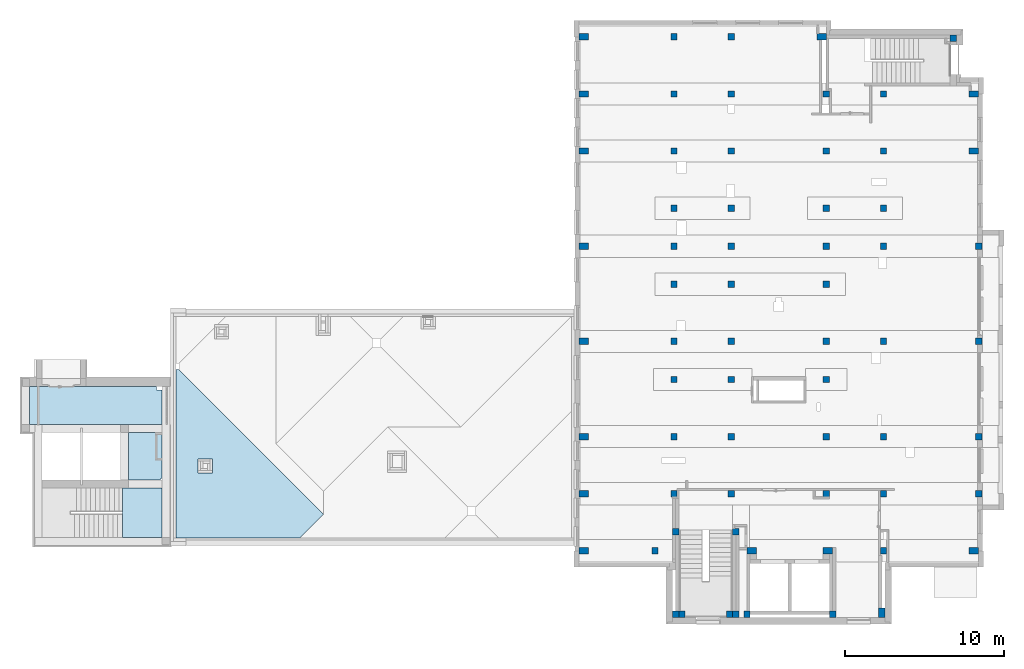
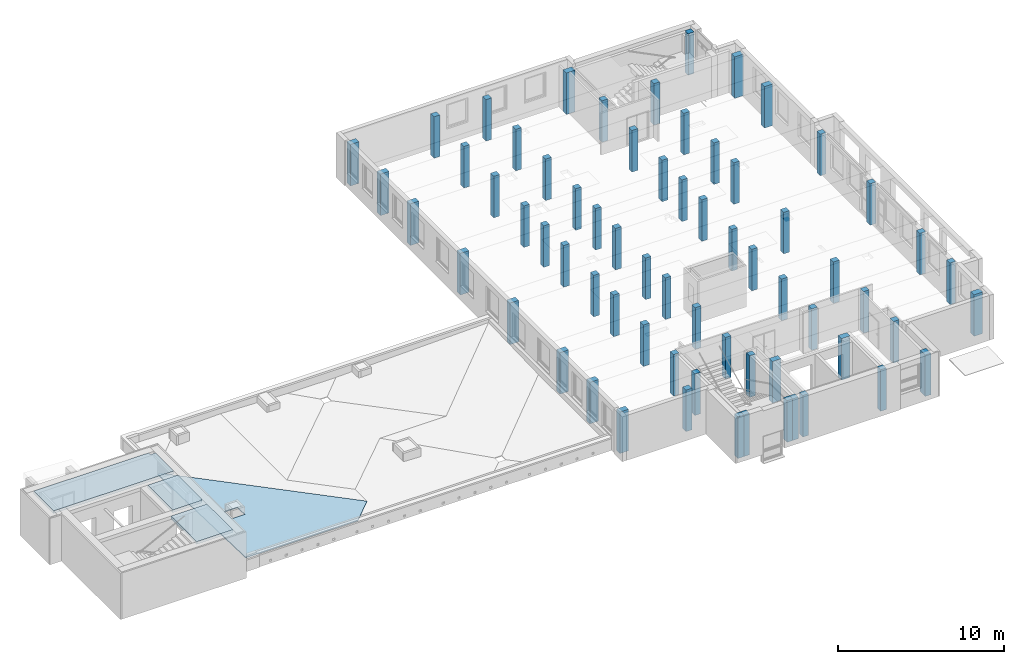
# One storey, part 1 of 27: 66 columns, 4 slabs, 2 openings, 1 element without a shape of its own.
"""IFC4 building model written with IfcOpenShell, lengths in metres."""

from ifc_helpers import new_model, entity, si_unit, converted_unit, derived_unit, frame, frame_2d, origin, origin_with_axes, place, context, subcontext, project, spatial, polyline, rectangle, outline, extrude, material, layer, layer_set, layer_usage, element, aggregate, save


model = new_model("IFC4")

# Units and contexts
model_context = context("Model", 3, precision=1e-05, world=origin())
body_context = subcontext(model_context, "Body", "Model", "MODEL_VIEW")
ifc_project = project(units=[si_unit("LENGTHUNIT", "METRE"), si_unit("AREAUNIT", "SQUARE_METRE"), si_unit("VOLUMEUNIT", "CUBIC_METRE"), si_unit("MASSUNIT", "GRAM", prefix="KILO"), converted_unit("PLANEANGLEUNIT", "DEGREE", entity("IfcPlaneAngleMeasure", 0.0174532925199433), si_unit("PLANEANGLEUNIT", "RADIAN"), dimensions=[0, 0, 0, 0, 0, 0, 0]), derived_unit("THERMALTRANSMITTANCEUNIT", [(si_unit("POWERUNIT", "WATT"), 1), (si_unit("THERMODYNAMICTEMPERATUREUNIT", "KELVIN"), -1), (si_unit("LENGTHUNIT", "METRE"), -2)]), derived_unit("VOLUMETRICFLOWRATEUNIT", [(si_unit("LENGTHUNIT", "METRE"), 3), (converted_unit("TIMEUNIT", "hour", entity("IfcTimeMeasure", 3600.0), si_unit("TIMEUNIT", "SECOND"), dimensions=[0, 0, 1, 0, 0, 0, 0]), -1), (si_unit("LENGTHUNIT", "METRE"), -1)])], contexts=[model_context])

# Site, building, storey
site_placement = place(None, origin())
site = spatial("IfcSite", under=ifc_project, at=site_placement, Name="3. ASŘ", CompositionType="ELEMENT")
building_placement = place(site_placement, origin())
building = spatial("IfcBuilding", under=site, at=building_placement, Name="Pavilon C", CompositionType="ELEMENT")
storey_placement = place(building_placement, frame((0.0, 0.0, 7.2)))
storey = spatial("IfcBuildingStorey", under=building, at=storey_placement, Name="Půdorys 3.NP", CompositionType="ELEMENT", Elevation=7.2)

# Columns
ifc_material_1 = material(Name="ZELEZOBETONOVÁ KCE")
column_1_placement = place(storey_placement, frame((30.95, 11.0, -0.1)))
element("IfcColumn", 1, at=column_1_placement, inside=storey, material=ifc_material_1, PredefinedType="COLUMN", context=body_context, shape_type="SweptSolid", body=[
    extrude(rectangle(XDim=0.4, YDim=0.4, at=frame_2d((-0.2, -0.2), x_axis=(-1.0, 0.0))), origin_with_axes(), (0.0, 0.0, 1.0), 3.05),
])
ifc_material_2 = material(Name="ZELEZOBETONOVÁ KCE")
column_2_placement = place(storey_placement, frame((44.15, 21.8, -0.1)))
element("IfcColumn", 2, at=column_2_placement, inside=storey, material=ifc_material_2, PredefinedType="COLUMN", context=body_context, shape_type="SweptSolid", body=[
    extrude(rectangle(XDim=0.4, YDim=0.4, at=frame_2d((-0.2, -0.2), x_axis=(-1.0, 0.0))), origin_with_axes(), (0.0, 0.0, 1.0), 3.05),
])
ifc_material_3 = material(Name="ZELEZOBETONOVÁ KCE")
column_3_placement = place(storey_placement, frame((40.55, 21.8, -0.1)))
element("IfcColumn", 3, at=column_3_placement, inside=storey, material=ifc_material_3, PredefinedType="COLUMN", context=body_context, shape_type="SweptSolid", body=[
    extrude(rectangle(XDim=0.4, YDim=0.4, at=frame_2d((-0.2, -0.2), x_axis=(-1.0, 0.0))), origin_with_axes(), (0.0, 0.0, 1.0), 3.05),
])
ifc_material_4 = material(Name="ZELEZOBETONOVÁ KCE")
column_4_placement = place(storey_placement, frame((40.55, 17.0, -0.1)))
element("IfcColumn", 4, at=column_4_placement, inside=storey, material=ifc_material_4, PredefinedType="COLUMN", context=body_context, shape_type="SweptSolid", body=[
    extrude(rectangle(XDim=0.4, YDim=0.4, at=frame_2d((-0.2, -0.2), x_axis=(-1.0, 0.0))), origin_with_axes(), (0.0, 0.0, 1.0), 3.05),
])
ifc_material_5 = material(Name="ZELEZOBETONOVÁ KCE")
column_5_placement = place(storey_placement, frame((40.55, 11.0, -0.1)))
element("IfcColumn", 5, at=column_5_placement, inside=storey, material=ifc_material_5, PredefinedType="COLUMN", context=body_context, shape_type="SweptSolid", body=[
    extrude(rectangle(XDim=0.4, YDim=0.4, at=frame_2d((-0.2, -0.2), x_axis=(-1.0, 0.0))), origin_with_axes(), (0.0, 0.0, 1.0), 3.05),
])
ifc_material_6 = material(Name="ZELEZOBETONOVÁ KCE")
column_6_placement = place(storey_placement, frame((34.55, 21.8, -0.1)))
element("IfcColumn", 6, at=column_6_placement, inside=storey, material=ifc_material_6, PredefinedType="COLUMN", context=body_context, shape_type="SweptSolid", body=[
    extrude(rectangle(XDim=0.4, YDim=0.4, at=frame_2d((-0.2, -0.2), x_axis=(-1.0, 0.0))), origin_with_axes(), (0.0, 0.0, 1.0), 3.05),
])
ifc_material_7 = material(Name="ZELEZOBETONOVÁ KCE")
column_7_placement = place(storey_placement, frame((34.55, 17.0, -0.1)))
element("IfcColumn", 7, at=column_7_placement, inside=storey, material=ifc_material_7, PredefinedType="COLUMN", context=body_context, shape_type="SweptSolid", body=[
    extrude(rectangle(XDim=0.4, YDim=0.4, at=frame_2d((-0.2, -0.2), x_axis=(-1.0, 0.0))), origin_with_axes(), (0.0, 0.0, 1.0), 3.05),
])
ifc_material_8 = material(Name="ZELEZOBETONOVÁ KCE")
column_8_placement = place(storey_placement, frame((34.55, 11.0, -0.1)))
element("IfcColumn", 8, at=column_8_placement, inside=storey, material=ifc_material_8, PredefinedType="COLUMN", context=body_context, shape_type="SweptSolid", body=[
    extrude(rectangle(XDim=0.4, YDim=0.4, at=frame_2d((-0.2, -0.2), x_axis=(-1.0, 0.0))), origin_with_axes(), (0.0, 0.0, 1.0), 3.05),
])
ifc_material_9 = material(Name="ZELEZOBETONOVÁ KCE")
column_9_placement = place(storey_placement, frame((30.95, 21.8, -0.1)))
element("IfcColumn", 9, at=column_9_placement, inside=storey, material=ifc_material_9, PredefinedType="COLUMN", context=body_context, shape_type="SweptSolid", body=[
    extrude(rectangle(XDim=0.4, YDim=0.4, at=frame_2d((-0.2, -0.2), x_axis=(-1.0, 0.0))), origin_with_axes(), (0.0, 0.0, 1.0), 3.05),
])
ifc_material_10 = material(Name="ZELEZOBETONOVÁ KCE")
column_10_placement = place(storey_placement, frame((30.95, 17.0, -0.1)))
element("IfcColumn", 10, at=column_10_placement, inside=storey, material=ifc_material_10, PredefinedType="COLUMN", context=body_context, shape_type="SweptSolid", body=[
    extrude(rectangle(XDim=0.4, YDim=0.4, at=frame_2d((-0.2, -0.2), x_axis=(-1.0, 0.0))), origin_with_axes(), (0.0, 0.0, 1.0), 3.05),
])
ifc_material_11 = material(Name="ZELEZOBETONOVÁ KCE")
column_11_placement = place(storey_placement, frame((29.75, 0.199999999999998, -0.1)))
element("IfcColumn", 11, at=column_11_placement, inside=storey, material=ifc_material_11, PredefinedType="COLUMN", context=body_context, shape_type="SweptSolid", body=[
    extrude(rectangle(XDim=0.4, YDim=0.4, at=frame_2d((-0.2, -0.2), x_axis=(-1.0, 1.4210854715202e-16))), origin_with_axes(), (0.0, 0.0, 1.0), 3.05),
])
ifc_material_12 = material(Name="ZELEZOBETONOVÁ KCE")
column_12_placement = place(storey_placement, frame((30.95, 32.6, -0.1)))
element("IfcColumn", 12, at=column_12_placement, inside=storey, material=ifc_material_12, PredefinedType="COLUMN", context=body_context, shape_type="SweptSolid", body=[
    extrude(rectangle(XDim=0.4, YDim=0.4, at=frame_2d((-0.2, -0.2), x_axis=(-1.0, 0.0))), origin_with_axes(), (0.0, 0.0, 1.0), 3.05),
])
ifc_material_13 = material(Name="ZELEZOBETONOVÁ KCE")
column_13_placement = place(storey_placement, frame((34.55, 32.6, -0.1)))
element("IfcColumn", 13, at=column_13_placement, inside=storey, material=ifc_material_13, PredefinedType="COLUMN", context=body_context, shape_type="SweptSolid", body=[
    extrude(rectangle(XDim=0.4, YDim=0.4, at=frame_2d((-0.2, -0.2), x_axis=(-1.0, 0.0))), origin_with_axes(), (0.0, 0.0, 1.0), 3.05),
])
ifc_material_14 = material(Name="ZELEZOBETONOVÁ KCE")
column_14_placement = place(storey_placement, frame((30.95, 29.0, -0.1)))
element("IfcColumn", 14, at=column_14_placement, inside=storey, material=ifc_material_14, PredefinedType="COLUMN", context=body_context, shape_type="SweptSolid", body=[
    extrude(rectangle(XDim=0.4, YDim=0.4, at=frame_2d((-0.2, -0.2), x_axis=(-1.0, 0.0))), origin_with_axes(), (0.0, 0.0, 1.0), 3.05),
])
ifc_material_15 = material(Name="ZELEZOBETONOVÁ KCE")
column_15_placement = place(storey_placement, frame((34.55, 29.0, -0.1)))
element("IfcColumn", 15, at=column_15_placement, inside=storey, material=ifc_material_15, PredefinedType="COLUMN", context=body_context, shape_type="SweptSolid", body=[
    extrude(rectangle(XDim=0.4, YDim=0.4, at=frame_2d((-0.2, -0.2), x_axis=(-1.0, 0.0))), origin_with_axes(), (0.0, 0.0, 1.0), 3.05),
])
ifc_material_16 = material(Name="ZELEZOBETONOVÁ KCE")
column_16_placement = place(storey_placement, frame((30.95, 25.4, -0.1)))
element("IfcColumn", 16, at=column_16_placement, inside=storey, material=ifc_material_16, PredefinedType="COLUMN", context=body_context, shape_type="SweptSolid", body=[
    extrude(rectangle(XDim=0.4, YDim=0.4, at=frame_2d((-0.2, -0.2), x_axis=(-1.0, 0.0))), origin_with_axes(), (0.0, 0.0, 1.0), 3.05),
])
ifc_material_17 = material(Name="ZELEZOBETONOVÁ KCE")
column_17_placement = place(storey_placement, frame((34.55, 25.4, -0.1)))
element("IfcColumn", 17, at=column_17_placement, inside=storey, material=ifc_material_17, PredefinedType="COLUMN", context=body_context, shape_type="SweptSolid", body=[
    extrude(rectangle(XDim=0.4, YDim=0.4, at=frame_2d((-0.2, -0.2), x_axis=(-1.0, 0.0))), origin_with_axes(), (0.0, 0.0, 1.0), 3.05),
])
ifc_material_18 = material(Name="ZELEZOBETONOVÁ KCE")
column_18_placement = place(storey_placement, frame((30.95, 19.4, -0.1)))
element("IfcColumn", 18, at=column_18_placement, inside=storey, material=ifc_material_18, PredefinedType="COLUMN", context=body_context, shape_type="SweptSolid", body=[
    extrude(rectangle(XDim=0.4, YDim=0.4, at=frame_2d((-0.2, -0.2), x_axis=(-1.0, 0.0))), origin_with_axes(), (0.0, 0.0, 1.0), 3.05),
])
ifc_material_19 = material(Name="ZELEZOBETONOVÁ KCE")
column_19_placement = place(storey_placement, frame((34.55, 19.4, -0.1)))
element("IfcColumn", 19, at=column_19_placement, inside=storey, material=ifc_material_19, PredefinedType="COLUMN", context=body_context, shape_type="SweptSolid", body=[
    extrude(rectangle(XDim=0.4, YDim=0.4, at=frame_2d((-0.2, -0.2), x_axis=(-1.0, 0.0))), origin_with_axes(), (0.0, 0.0, 1.0), 3.05),
])
ifc_material_20 = material(Name="ZELEZOBETONOVÁ KCE")
column_20_placement = place(storey_placement, frame((30.95, 13.4, -0.1)))
element("IfcColumn", 20, at=column_20_placement, inside=storey, material=ifc_material_20, PredefinedType="COLUMN", context=body_context, shape_type="SweptSolid", body=[
    extrude(rectangle(XDim=0.4, YDim=0.4, at=frame_2d((-0.2, -0.2), x_axis=(-1.0, 0.0))), origin_with_axes(), (0.0, 0.0, 1.0), 3.05),
])
ifc_material_21 = material(Name="ZELEZOBETONOVÁ KCE")
column_21_placement = place(storey_placement, frame((34.55, 13.4, -0.1)))
element("IfcColumn", 21, at=column_21_placement, inside=storey, material=ifc_material_21, PredefinedType="COLUMN", context=body_context, shape_type="SweptSolid", body=[
    extrude(rectangle(XDim=0.4, YDim=0.4, at=frame_2d((-0.2, -0.2), x_axis=(-1.0, 0.0))), origin_with_axes(), (0.0, 0.0, 1.0), 3.05),
])
ifc_material_22 = material(Name="ZELEZOBETONOVÁ KCE")
column_22_placement = place(storey_placement, frame((30.95, 7.4, -0.1)))
element("IfcColumn", 22, at=column_22_placement, inside=storey, material=ifc_material_22, PredefinedType="COLUMN", context=body_context, shape_type="SweptSolid", body=[
    extrude(rectangle(XDim=0.4, YDim=0.4, at=frame_2d((-0.2, -0.2), x_axis=(-1.0, 0.0))), origin_with_axes(), (0.0, 0.0, 1.0), 3.05),
])
ifc_material_23 = material(Name="ZELEZOBETONOVÁ KCE")
column_23_placement = place(storey_placement, frame((34.55, 7.4, -0.1)))
element("IfcColumn", 23, at=column_23_placement, inside=storey, material=ifc_material_23, PredefinedType="COLUMN", context=body_context, shape_type="SweptSolid", body=[
    extrude(rectangle(XDim=0.4, YDim=0.4, at=frame_2d((-0.2, -0.2), x_axis=(-1.0, 0.0))), origin_with_axes(), (0.0, 0.0, 1.0), 3.05),
])
ifc_material_24 = material(Name="ZELEZOBETONOVÁ KCE")
column_24_placement = place(storey_placement, frame((40.55, 7.39999999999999, -0.1)))
element("IfcColumn", 24, at=column_24_placement, inside=storey, material=ifc_material_24, PredefinedType="COLUMN", context=body_context, shape_type="SweptSolid", body=[
    extrude(rectangle(XDim=0.4, YDim=0.4, at=frame_2d((-0.2, -0.2), x_axis=(-1.0, 0.0))), origin_with_axes(), (0.0, 0.0, 1.0), 3.05),
])
ifc_material_25 = material(Name="ZELEZOBETONOVÁ KCE")
column_25_placement = place(storey_placement, frame((44.15, 7.39999999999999, -0.1)))
element("IfcColumn", 25, at=column_25_placement, inside=storey, material=ifc_material_25, PredefinedType="COLUMN", context=body_context, shape_type="SweptSolid", body=[
    extrude(rectangle(XDim=0.4, YDim=0.4, at=frame_2d((-0.2, -0.2), x_axis=(-1.0, 0.0))), origin_with_axes(), (0.0, 0.0, 1.0), 3.05),
])
ifc_material_26 = material(Name="ZELEZOBETONOVÁ KCE")
column_26_placement = place(storey_placement, frame((40.55, 13.4, -0.1)))
element("IfcColumn", 26, at=column_26_placement, inside=storey, material=ifc_material_26, PredefinedType="COLUMN", context=body_context, shape_type="SweptSolid", body=[
    extrude(rectangle(XDim=0.4, YDim=0.4, at=frame_2d((-0.2, -0.2), x_axis=(-1.0, 0.0))), origin_with_axes(), (0.0, 0.0, 1.0), 3.05),
])
ifc_material_27 = material(Name="ZELEZOBETONOVÁ KCE")
column_27_placement = place(storey_placement, frame((44.15, 13.4, -0.1)))
element("IfcColumn", 27, at=column_27_placement, inside=storey, material=ifc_material_27, PredefinedType="COLUMN", context=body_context, shape_type="SweptSolid", body=[
    extrude(rectangle(XDim=0.4, YDim=0.4, at=frame_2d((-0.2, -0.2), x_axis=(-1.0, 0.0))), origin_with_axes(), (0.0, 0.0, 1.0), 3.05),
])
ifc_material_28 = material(Name="ZELEZOBETONOVÁ KCE")
column_28_placement = place(storey_placement, frame((40.55, 19.4, -0.1)))
element("IfcColumn", 28, at=column_28_placement, inside=storey, material=ifc_material_28, PredefinedType="COLUMN", context=body_context, shape_type="SweptSolid", body=[
    extrude(rectangle(XDim=0.4, YDim=0.4, at=frame_2d((-0.2, -0.2), x_axis=(-1.0, 0.0))), origin_with_axes(), (0.0, 0.0, 1.0), 3.05),
])
ifc_material_29 = material(Name="ZELEZOBETONOVÁ KCE")
column_29_placement = place(storey_placement, frame((44.15, 19.4, -0.1)))
element("IfcColumn", 29, at=column_29_placement, inside=storey, material=ifc_material_29, PredefinedType="COLUMN", context=body_context, shape_type="SweptSolid", body=[
    extrude(rectangle(XDim=0.4, YDim=0.4, at=frame_2d((-0.2, -0.2), x_axis=(-1.0, 0.0))), origin_with_axes(), (0.0, 0.0, 1.0), 3.05),
])
ifc_material_30 = material(Name="ZELEZOBETONOVÁ KCE")
column_30_placement = place(storey_placement, frame((40.55, 25.4, -0.1)))
element("IfcColumn", 30, at=column_30_placement, inside=storey, material=ifc_material_30, PredefinedType="COLUMN", context=body_context, shape_type="SweptSolid", body=[
    extrude(rectangle(XDim=0.4, YDim=0.4, at=frame_2d((-0.2, -0.2), x_axis=(-1.0, 0.0))), origin_with_axes(), (0.0, 0.0, 1.0), 3.05),
])
ifc_material_31 = material(Name="ZELEZOBETONOVÁ KCE")
column_31_placement = place(storey_placement, frame((44.15, 25.4, -0.1)))
element("IfcColumn", 31, at=column_31_placement, inside=storey, material=ifc_material_31, PredefinedType="COLUMN", context=body_context, shape_type="SweptSolid", body=[
    extrude(rectangle(XDim=0.4, YDim=0.4, at=frame_2d((-0.2, -0.2), x_axis=(-1.0, 0.0))), origin_with_axes(), (0.0, 0.0, 1.0), 3.05),
])
ifc_material_32 = material(Name="ZELEZOBETONOVÁ KCE")
column_32_placement = place(storey_placement, frame((44.15, 29.0, -0.1)))
element("IfcColumn", 32, at=column_32_placement, inside=storey, material=ifc_material_32, PredefinedType="COLUMN", context=body_context, shape_type="SweptSolid", body=[
    extrude(rectangle(XDim=0.4, YDim=0.4, at=frame_2d((-0.2, -0.2), x_axis=(-1.0, 0.0))), origin_with_axes(), (0.0, 0.0, 1.0), 3.05),
])
ifc_material_33 = material(Name="ZELEZOBETONOVÁ KCE")
column_33_placement = place(storey_placement, frame((50.15, 3.79999999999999, -0.1)))
element("IfcColumn", 33, at=column_33_placement, inside=storey, material=ifc_material_33, PredefinedType="COLUMN", context=body_context, shape_type="SweptSolid", body=[
    extrude(rectangle(XDim=0.4, YDim=0.4, at=frame_2d((-0.2, -0.2), x_axis=(-1.0, 1.13686837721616e-15))), origin_with_axes(), (0.0, 0.0, 1.0), 3.05),
])
ifc_material_34 = material(Name="ZELEZOBETONOVÁ KCE")
column_34_placement = place(storey_placement, frame((50.15, 13.4, -0.1)))
element("IfcColumn", 34, at=column_34_placement, inside=storey, material=ifc_material_34, PredefinedType="COLUMN", context=body_context, shape_type="SweptSolid", body=[
    extrude(rectangle(XDim=0.4, YDim=0.4, at=frame_2d((-0.2, -0.2), x_axis=(-1.0, 0.0))), origin_with_axes(), (0.0, 0.0, 1.0), 3.05),
])
ifc_material_35 = material(Name="ZELEZOBETONOVÁ KCE")
column_35_placement = place(storey_placement, frame((50.15, 19.4, -0.1)))
element("IfcColumn", 35, at=column_35_placement, inside=storey, material=ifc_material_35, PredefinedType="COLUMN", context=body_context, shape_type="SweptSolid", body=[
    extrude(rectangle(XDim=0.4, YDim=0.4, at=frame_2d((-0.2, -0.2), x_axis=(-1.0, 0.0))), origin_with_axes(), (0.0, 0.0, 1.0), 3.05),
])
ifc_material_36 = material(Name="ZELEZOBETONOVÁ KCE")
column_36_placement = place(storey_placement, frame((50.15, 7.39999999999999, -0.1)))
element("IfcColumn", 36, at=column_36_placement, inside=storey, material=ifc_material_36, PredefinedType="COLUMN", context=body_context, shape_type="SweptSolid", body=[
    extrude(rectangle(XDim=0.4, YDim=0.4, at=frame_2d((-0.2, -0.2), x_axis=(-1.0, 0.0))), origin_with_axes(), (0.0, 0.0, 1.0), 3.05),
])
ifc_material_37 = material(Name="ZELEZOBETONOVÁ KCE")
column_37_placement = place(storey_placement, frame((49.95, 0.19999999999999, -0.1)))
element("IfcColumn", 37, at=column_37_placement, inside=storey, material=ifc_material_37, PredefinedType="COLUMN", context=body_context, shape_type="SweptSolid", body=[
    extrude(rectangle(XDim=0.6, YDim=0.4, at=frame_2d((-0.3, -0.2), x_axis=(-1.0, 0.0))), origin_with_axes(), (0.0, 0.0, 1.0), 3.05),
])
ifc_material_38 = material(Name="ZELEZOBETONOVÁ KCE")
column_38_placement = place(storey_placement, frame((40.55, 29.0, -0.1)))
element("IfcColumn", 38, at=column_38_placement, inside=storey, material=ifc_material_38, PredefinedType="COLUMN", context=body_context, shape_type="SweptSolid", body=[
    extrude(rectangle(XDim=0.4, YDim=0.4, at=frame_2d((-0.2, -0.2), x_axis=(-1.0, 0.0))), origin_with_axes(), (0.0, 0.0, 1.0), 3.05),
])
ifc_material_39 = material(Name="ZELEZOBETONOVÁ KCE")
column_39_placement = place(storey_placement, frame((40.55, 3.79999999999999, -0.1)))
element("IfcColumn", 39, at=column_39_placement, inside=storey, material=ifc_material_39, PredefinedType="COLUMN", context=body_context, shape_type="SweptSolid", body=[
    extrude(rectangle(XDim=0.4, YDim=0.4, at=frame_2d((-0.2, -0.2), x_axis=(-1.0, 0.0))), origin_with_axes(), (0.0, 0.0, 1.0), 3.05),
])
ifc_material_40 = material(Name="ZELEZOBETONOVÁ KCE")
column_40_placement = place(storey_placement, frame((34.55, 3.8, -0.1)))
element("IfcColumn", 40, at=column_40_placement, inside=storey, material=ifc_material_40, PredefinedType="COLUMN", context=body_context, shape_type="SweptSolid", body=[
    extrude(rectangle(XDim=0.4, YDim=0.4, at=frame_2d((-0.2, -0.2), x_axis=(-1.0, 0.0))), origin_with_axes(), (0.0, 0.0, 1.0), 3.05),
])
ifc_material_41 = material(Name="ZELEZOBETONOVÁ KCE")
column_41_placement = place(storey_placement, frame((30.95, 3.8, -0.1)))
element("IfcColumn", 41, at=column_41_placement, inside=storey, material=ifc_material_41, PredefinedType="COLUMN", context=body_context, shape_type="SweptSolid", body=[
    extrude(rectangle(XDim=0.4, YDim=0.4, at=frame_2d((-0.2, -0.2), x_axis=(-1.0, 0.0))), origin_with_axes(), (0.0, 0.0, 1.0), 3.05),
])
ifc_material_42 = material(Name="ZELEZOBETONOVÁ KCE")
column_42_placement = place(storey_placement, frame((44.15, 3.79999999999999, -0.1)))
element("IfcColumn", 42, at=column_42_placement, inside=storey, material=ifc_material_42, PredefinedType="COLUMN", context=body_context, shape_type="SweptSolid", body=[
    extrude(rectangle(XDim=0.4, YDim=0.4, at=frame_2d((-0.2, -0.2), x_axis=(-1.0, 0.0))), origin_with_axes(), (0.0, 0.0, 1.0), 3.05),
])
ifc_material_43 = material(Name="ZELEZOBETONOVÁ KCE")
column_43_placement = place(storey_placement, frame((49.95, 25.4, -0.1)))
element("IfcColumn", 43, at=column_43_placement, inside=storey, material=ifc_material_43, PredefinedType="COLUMN", context=body_context, shape_type="SweptSolid", body=[
    extrude(rectangle(XDim=0.6, YDim=0.4, at=frame_2d((-0.3, -0.2), x_axis=(-1.0, 0.0))), origin_with_axes(), (0.0, 0.0, 1.0), 3.05),
])
ifc_material_44 = material(Name="ZELEZOBETONOVÁ KCE")
column_44_placement = place(storey_placement, frame((40.35, 32.6, -0.1)))
element("IfcColumn", 44, at=column_44_placement, inside=storey, material=ifc_material_44, PredefinedType="COLUMN", context=body_context, shape_type="SweptSolid", body=[
    extrude(rectangle(XDim=0.599999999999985, YDim=0.4, at=frame_2d((-0.299999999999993, -0.2), x_axis=(-1.0, 0.0))), origin_with_axes(), (0.0, 0.0, 1.0), 3.05),
])
ifc_material_45 = material(Name="ZELEZOBETONOVÁ KCE")
column_45_placement = place(storey_placement, frame((49.95, 29.0, -0.1)))
element("IfcColumn", 45, at=column_45_placement, inside=storey, material=ifc_material_45, PredefinedType="COLUMN", context=body_context, shape_type="SweptSolid", body=[
    extrude(rectangle(XDim=0.6, YDim=0.4, at=frame_2d((-0.3, -0.2), x_axis=(-1.0, 0.0))), origin_with_axes(), (0.0, 0.0, 1.0), 3.05),
])
ifc_material_46 = material(Name="ZELEZOBETONOVÁ KCE")
column_46_placement = place(storey_placement, frame((31.05, 1.4, -0.1)))
element("IfcColumn", 46, at=column_46_placement, inside=storey, material=ifc_material_46, PredefinedType="COLUMN", context=body_context, shape_type="SweptSolid", body=[
    extrude(rectangle(XDim=0.4, YDim=0.4, at=frame_2d((-0.2, -0.2), x_axis=(-1.0, 0.0))), origin_with_axes(), (0.0, 0.0, 1.0), 3.05),
])
ifc_material_47 = material(Name="ZELEZOBETONOVÁ KCE")
column_47_placement = place(storey_placement, frame((31.05, -3.79999999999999, -0.1)))
element("IfcColumn", 47, at=column_47_placement, inside=storey, material=ifc_material_47, PredefinedType="COLUMN", context=body_context, shape_type="SweptSolid", body=[
    extrude(rectangle(XDim=0.4, YDim=0.4, at=frame_2d((-0.2, -0.2), x_axis=(-1.0, 1.13686837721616e-15))), origin_with_axes(), (0.0, 0.0, 1.0), 3.05),
])
ifc_material_48 = material(Name="ZELEZOBETONOVÁ KCE")
column_48_placement = place(storey_placement, frame((31.45, -3.8, -0.1)))
element("IfcColumn", 48, at=column_48_placement, inside=storey, material=ifc_material_48, PredefinedType="COLUMN", context=body_context, shape_type="SweptSolid", body=[
    extrude(rectangle(XDim=0.4, YDim=0.4, at=frame_2d((-0.2, -0.2), x_axis=(-1.0, 1.13686837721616e-15))), origin_with_axes(), (0.0, 0.0, 1.0), 3.05),
])
ifc_material_49 = material(Name="ZELEZOBETONOVÁ KCE")
column_49_placement = place(storey_placement, frame((34.85, 1.4, -0.1)))
element("IfcColumn", 49, at=column_49_placement, inside=storey, material=ifc_material_49, PredefinedType="COLUMN", context=body_context, shape_type="SweptSolid", body=[
    extrude(rectangle(XDim=0.4, YDim=0.4, at=frame_2d((-0.2, -0.2), x_axis=(-1.0, 0.0))), origin_with_axes(), (0.0, 0.0, 1.0), 3.05),
])
ifc_material_50 = material(Name="ZELEZOBETONOVÁ KCE")
column_50_placement = place(storey_placement, frame((40.75, 0.199999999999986, -0.1)))
element("IfcColumn", 50, at=column_50_placement, inside=storey, material=ifc_material_50, PredefinedType="COLUMN", context=body_context, shape_type="SweptSolid", body=[
    extrude(rectangle(XDim=0.6, YDim=0.4, at=frame_2d((-0.3, -0.2), x_axis=(-1.0, 0.0))), origin_with_axes(), (0.0, 0.0, 1.0), 3.05),
])
ifc_material_51 = material(Name="ZELEZOBETONOVÁ KCE")
column_51_placement = place(storey_placement, frame((35.95, 0.199999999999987, -0.1)))
element("IfcColumn", 51, at=column_51_placement, inside=storey, material=ifc_material_51, PredefinedType="COLUMN", context=body_context, shape_type="SweptSolid", body=[
    extrude(rectangle(XDim=0.6, YDim=0.4, at=frame_2d((-0.3, -0.2), x_axis=(-1.0, 0.0))), origin_with_axes(), (0.0, 0.0, 1.0), 3.05),
])
ifc_material_52 = material(Name="ZELEZOBETONOVÁ KCE")
column_52_placement = place(storey_placement, frame((43.65, -3.6, -0.1)))
element("IfcColumn", 52, at=column_52_placement, inside=storey, material=ifc_material_52, PredefinedType="COLUMN", context=body_context, shape_type="SweptSolid", body=[
    extrude(rectangle(XDim=0.6, YDim=0.4, at=frame_2d((0.2, -0.3), x_axis=(0.0, -1.0))), origin_with_axes(), (0.0, 0.0, 1.0), 3.05),
])
ifc_material_53 = material(Name="ZELEZOBETONOVÁ KCE")
column_53_placement = place(storey_placement, frame((44.15, 0.19999999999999, -0.1)))
element("IfcColumn", 53, at=column_53_placement, inside=storey, material=ifc_material_53, PredefinedType="COLUMN", context=body_context, shape_type="SweptSolid", body=[
    extrude(rectangle(XDim=0.4, YDim=0.4, at=frame_2d((-0.2, -0.2), x_axis=(-1.0, 1.4210854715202e-16))), origin_with_axes(), (0.0, 0.0, 1.0), 3.05),
])
ifc_material_54 = material(Name="ZELEZOBETONOVÁ KCE")
column_54_placement = place(storey_placement, frame((40.95, -3.80000000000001, -0.1)))
element("IfcColumn", 54, at=column_54_placement, inside=storey, material=ifc_material_54, PredefinedType="COLUMN", context=body_context, shape_type="SweptSolid", body=[
    extrude(rectangle(XDim=0.4, YDim=0.399999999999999, at=frame_2d((-0.2, -0.2), x_axis=(-1.0, 0.0))), origin_with_axes(), (0.0, 0.0, 1.0), 3.05),
])
ifc_material_55 = material(Name="ZELEZOBETONOVÁ KCE")
column_55_placement = place(storey_placement, frame((35.55, -3.8, -0.1)))
element("IfcColumn", 55, at=column_55_placement, inside=storey, material=ifc_material_55, PredefinedType="COLUMN", context=body_context, shape_type="SweptSolid", body=[
    extrude(rectangle(XDim=0.4, YDim=0.4, at=frame_2d((-0.2, -0.2), x_axis=(-1.0, 1.13686837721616e-15))), origin_with_axes(), (0.0, 0.0, 1.0), 3.05),
])
ifc_material_56 = material(Name="ZELEZOBETONOVÁ KCE")
column_56_placement = place(storey_placement, frame((34.45, -3.79999999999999, -0.1)))
element("IfcColumn", 56, at=column_56_placement, inside=storey, material=ifc_material_56, PredefinedType="COLUMN", context=body_context, shape_type="SweptSolid", body=[
    extrude(rectangle(XDim=0.4, YDim=0.4, at=frame_2d((-0.2, -0.2), x_axis=(-1.0, 1.13686837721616e-15))), origin_with_axes(), (0.0, 0.0, 1.0), 3.05),
])
ifc_material_57 = material(Name="ZELEZOBETONOVÁ KCE")
column_57_placement = place(storey_placement, frame((34.85, -3.79999999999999, -0.1)))
element("IfcColumn", 57, at=column_57_placement, inside=storey, material=ifc_material_57, PredefinedType="COLUMN", context=body_context, shape_type="SweptSolid", body=[
    extrude(rectangle(XDim=0.4, YDim=0.4, at=frame_2d((-0.2, -0.2), x_axis=(-1.0, 1.13686837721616e-15))), origin_with_axes(), (0.0, 0.0, 1.0), 3.05),
])
ifc_material_58 = material(Name="ZELEZOBETONOVÁ KCE")
column_58_placement = place(storey_placement, frame((48.55, 32.5, -0.1)))
element("IfcColumn", 58, at=column_58_placement, inside=storey, material=ifc_material_58, PredefinedType="COLUMN", context=body_context, shape_type="SweptSolid", body=[
    extrude(rectangle(XDim=0.4, YDim=0.4, at=frame_2d((-0.2, -0.2), x_axis=(-1.0, 0.0))), origin_with_axes(), (0.0, 0.0, 1.0), 3.05),
])
ifc_material_59 = material(Name="ZELEZOBETONOVÁ KCE")
column_59_placement = place(storey_placement, frame((25.35, 19.4, -0.1)))
element("IfcColumn", 59, at=column_59_placement, inside=storey, material=ifc_material_59, PredefinedType="COLUMN", context=body_context, shape_type="SweptSolid", body=[
    extrude(rectangle(XDim=0.599999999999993, YDim=0.4, at=frame_2d((-0.299999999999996, -0.2), x_axis=(-1.0, 0.0))), origin_with_axes(), (0.0, 0.0, 1.0), 3.05),
])
ifc_material_60 = material(Name="ZELEZOBETONOVÁ KCE")
column_60_placement = place(storey_placement, frame((25.35, 25.4, -0.1)))
element("IfcColumn", 60, at=column_60_placement, inside=storey, material=ifc_material_60, PredefinedType="COLUMN", context=body_context, shape_type="SweptSolid", body=[
    extrude(rectangle(XDim=0.599999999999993, YDim=0.4, at=frame_2d((-0.299999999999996, -0.2), x_axis=(-1.0, 0.0))), origin_with_axes(), (0.0, 0.0, 1.0), 3.05),
])
ifc_material_61 = material(Name="ZELEZOBETONOVÁ KCE")
column_61_placement = place(storey_placement, frame((25.35, 29.0, -0.1)))
element("IfcColumn", 61, at=column_61_placement, inside=storey, material=ifc_material_61, PredefinedType="COLUMN", context=body_context, shape_type="SweptSolid", body=[
    extrude(rectangle(XDim=0.599999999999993, YDim=0.4, at=frame_2d((-0.299999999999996, -0.2), x_axis=(-1.0, 0.0))), origin_with_axes(), (0.0, 0.0, 1.0), 3.05),
])
ifc_material_62 = material(Name="ZELEZOBETONOVÁ KCE")
column_62_placement = place(storey_placement, frame((25.35, 0.199999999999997, -0.1)))
element("IfcColumn", 62, at=column_62_placement, inside=storey, material=ifc_material_62, PredefinedType="COLUMN", context=body_context, shape_type="SweptSolid", body=[
    extrude(rectangle(XDim=0.6, YDim=0.4, at=frame_2d((-0.3, -0.2), x_axis=(-1.0, 0.0))), origin_with_axes(), (0.0, 0.0, 1.0), 3.05),
])
ifc_material_63 = material(Name="ZELEZOBETONOVÁ KCE")
column_63_placement = place(storey_placement, frame((25.35, 13.4, -0.1)))
element("IfcColumn", 63, at=column_63_placement, inside=storey, material=ifc_material_63, PredefinedType="COLUMN", context=body_context, shape_type="SweptSolid", body=[
    extrude(rectangle(XDim=0.6, YDim=0.4, at=frame_2d((-0.3, -0.2), x_axis=(-1.0, 0.0))), origin_with_axes(), (0.0, 0.0, 1.0), 3.05),
])
ifc_material_64 = material(Name="ZELEZOBETONOVÁ KCE")
column_64_placement = place(storey_placement, frame((25.35, 7.4, -0.1)))
element("IfcColumn", 64, at=column_64_placement, inside=storey, material=ifc_material_64, PredefinedType="COLUMN", context=body_context, shape_type="SweptSolid", body=[
    extrude(rectangle(XDim=0.6, YDim=0.4, at=frame_2d((-0.3, -0.2), x_axis=(-1.0, 0.0))), origin_with_axes(), (0.0, 0.0, 1.0), 3.05),
])
ifc_material_65 = material(Name="ZELEZOBETONOVÁ KCE")
column_65_placement = place(storey_placement, frame((25.35, 3.8, -0.1)))
element("IfcColumn", 65, at=column_65_placement, inside=storey, material=ifc_material_65, PredefinedType="COLUMN", context=body_context, shape_type="SweptSolid", body=[
    extrude(rectangle(XDim=0.6, YDim=0.4, at=frame_2d((-0.3, -0.2), x_axis=(-1.0, 0.0))), origin_with_axes(), (0.0, 0.0, 1.0), 3.05),
])
ifc_material_66 = material(Name="ZELEZOBETONOVÁ KCE")
column_66_placement = place(storey_placement, frame((25.35, 32.6, -0.1)))
element("IfcColumn", 66, at=column_66_placement, inside=storey, material=ifc_material_66, PredefinedType="COLUMN", context=body_context, shape_type="SweptSolid", body=[
    extrude(rectangle(XDim=0.599999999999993, YDim=0.4, at=frame_2d((-0.299999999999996, -0.2), x_axis=(-1.0, 0.0))), origin_with_axes(), (0.0, 0.0, 1.0), 3.05),
])

# Slab
ifc_material_67 = material(Name="PZD")
slab_1_placement = place(storey_placement, frame((-4.0249, 0.850000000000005, 2.68)))
element("IfcSlab", 67, at=slab_1_placement, inside=storey, material=ifc_material_67, PredefinedType="FLOOR", context=body_context, shape_type="SweptSolid", body=[
    extrude(rectangle(XDim=2.4999, YDim=3.1, at=frame_2d((1.24995, 1.55), x_axis=(1.0, 0.0))), origin_with_axes(), (0.0, 0.0, 1.0), 0.2),
])

# Slab, opening
ifc_material_68 = material(Name="ZELEZOBETONOVÁ KCE")
slab_2_placement = place(storey_placement, frame((-3.62499999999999, 4.45, 2.68)))
slab_2 = element("IfcSlab", 68, at=slab_2_placement, inside=storey, material=ifc_material_68, PredefinedType="FLOOR", context=body_context, shape_type="SweptSolid", body=[
    extrude(rectangle(XDim=2.1, YDim=3.0, at=frame_2d((1.05, 1.5), x_axis=(1.0, 0.0))), origin_with_axes(), (0.0, 0.0, 1.0), 0.2),
])
opening_1_placement = place(slab_2_placement, frame((2.0, 0.0, 0.0)))
element("IfcOpeningElement", 69, at=opening_1_placement, cuts=slab_2, Name="Prostup deskou", ObjectType="Opening", context=body_context, shape_type="SweptSolid", body=[
    extrude(rectangle(XDim=0.1, YDim=0.1, at=frame_2d((0.0, 0.0), x_axis=(0.0, -1.0))), frame((0.05, 0.05, 0.0), z_axis=(0.0, 0.0, 1.0), x_axis=(1.0, 0.0, 0.0)), (0.0, 0.0, 1.0), 0.2),
])

ifc_material_69 = material(Name="ZELEZOBETONOVÁ KCE")
slab_3_placement = place(storey_placement, frame((-9.87499999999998, 7.95, 2.68)))
slab_3 = element("IfcSlab", 70, at=slab_3_placement, inside=storey, material=ifc_material_69, PredefinedType="FLOOR", context=body_context, shape_type="SweptSolid", body=[
    extrude(rectangle(XDim=8.34999999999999, YDim=2.40000000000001, at=frame_2d((4.175, 1.2), x_axis=(1.0, 0.0))), origin_with_axes(), (0.0, 0.0, 1.0), 0.2),
])
opening_2_placement = place(slab_3_placement, frame((7.99999999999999, 2.2, 0.0)))
element("IfcOpeningElement", 71, at=opening_2_placement, cuts=slab_3, Name="Prostup deskou", ObjectType="Opening", context=body_context, shape_type="SweptSolid", body=[
    extrude(rectangle(XDim=0.2, YDim=0.35, at=frame_2d((0.0, 1.81898940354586e-15), x_axis=(0.0, -1.0))), frame((0.175, 0.0999999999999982, 0.0), z_axis=(0.0, 0.0, 1.0), x_axis=(1.0, 0.0, 0.0)), (0.0, 0.0, 1.0), 0.2),
])

# Roof, slab
roof_placement = place(storey_placement, frame((0.0, 0.0, -7.2)))
roof = element("IfcRoof", 72, at=roof_placement, inside=storey, PredefinedType="NOTDEFINED")
ifc_material_70 = material(Name="ASFALTOVÁ HYDROIZOLACE")
ifc_layer_1 = layer(ifc_material_70, 0.01)
ifc_material_71 = material(Name="KAČÍREK")
ifc_layer_2 = layer(ifc_material_71, 0.06)
ifc_layer_set = layer_set([ifc_layer_1, ifc_layer_2])
ifc_layer_usage = layer_usage(ifc_layer_set, "AXIS3", "POSITIVE", 0.0)
slab_4_placement = place(roof_placement, frame((-0.649999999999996, 0.820000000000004, 7.38)))
slab_4 = element("IfcSlab", 73, at=slab_4_placement, material=ifc_layer_usage, PredefinedType="ROOF", context=body_context, shape_type="SweptSolid", body=[
    extrude(outline(polyline([(-2.74500000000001, 6.06383799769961), (-2.74499999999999, -4.53592868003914), (5.0599999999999, -4.53592868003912), (6.55500000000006, -3.04025608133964), (-2.54499999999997, 6.06383799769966), (-2.74500000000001, 6.06383799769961)]), holes=[polyline([(-1.345, 0.446311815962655), (-0.444999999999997, 0.446311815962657), (-0.444999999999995, -0.454093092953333), (-1.345, -0.454093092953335), (-1.345, 0.446311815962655)])]), frame((2.745, 4.53388888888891, 0.181833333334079), z_axis=(7.28504742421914e-17, 0.0299865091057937, 0.999550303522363), x_axis=(1.0, -2.4294416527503e-15, 0.0)), (0.0, -0.0299865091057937, 0.999550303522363), 0.0700314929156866),
])
aggregate(roof, [slab_4])

save(model, "model.ifc")
